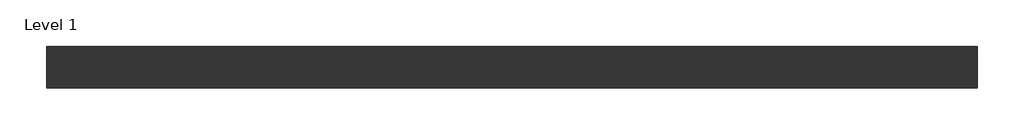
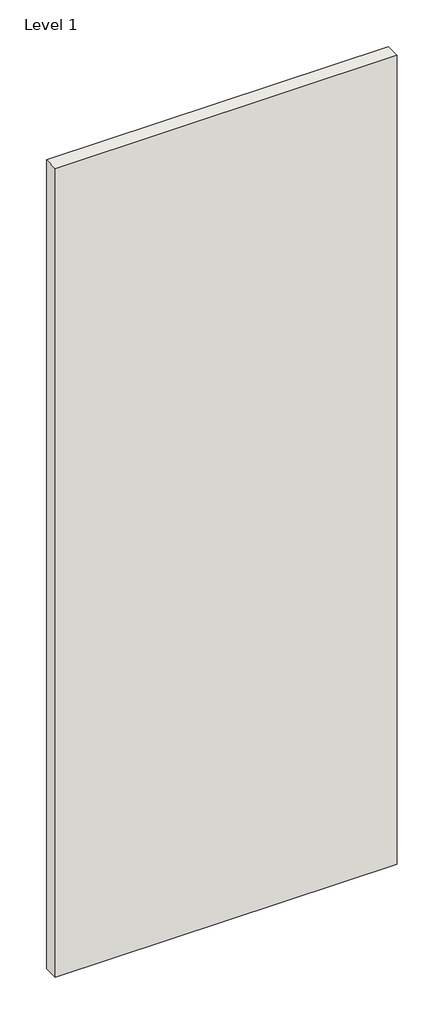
# One storey: 1 wall.
"""IFC4 building model written with IfcOpenShell, lengths in millimetres."""

from ifc_helpers import new_model, si_unit, origin, origin_with_axes, place, context, project, spatial, polyline, outline, extrude, element, save

model = new_model("IFC4")

# Units and contexts
model_context = context("Model", 3, world=origin())
ifc_project = project(units=[si_unit("LENGTHUNIT", "METRE", prefix="MILLI")], contexts=[model_context])

# Site, building, storey
site = spatial("IfcSite", under=ifc_project)
building = spatial("IfcBuilding", under=site)
storey = spatial("IfcBuildingStorey", under=building, Name="Level 1", Elevation=0.0)

# Wall
placement = place(None, origin())
element("IfcWall", 1, ObjectType="RIGIPS - 3.21.30 - EI 60, REI 60 (46)", at=placement, inside=storey, context=model_context, shape_type="SweptSolid", body=[
    extrude(outline(polyline([(1000.0, -22.5), (0.0, -22.5), (0.0, 22.5), (1000.0, 22.5), (1000.0, -22.5)])), origin_with_axes(), (0.0, 0.0, 1.0), 2500.0),
])

save(model, "model.ifc")
